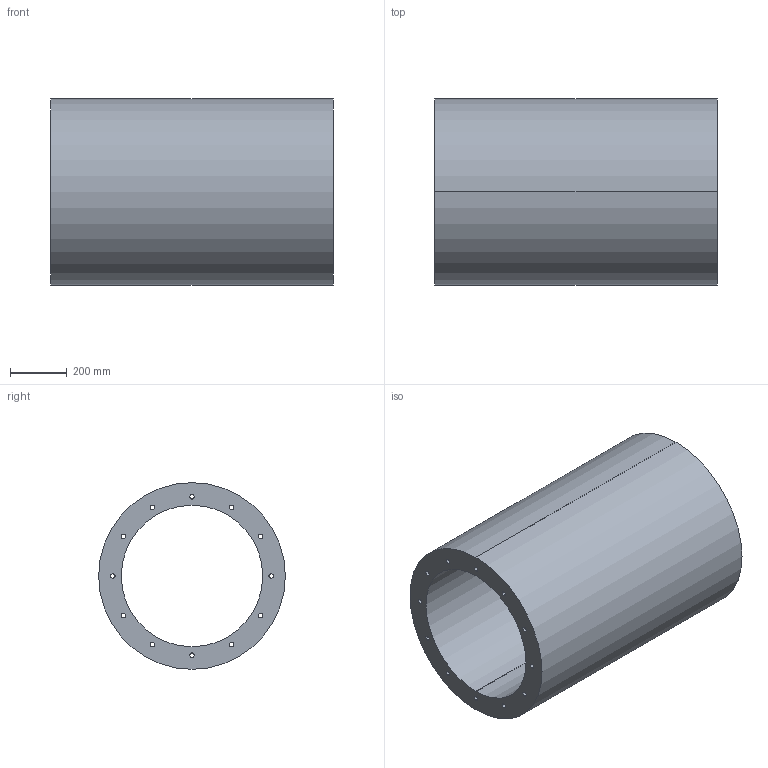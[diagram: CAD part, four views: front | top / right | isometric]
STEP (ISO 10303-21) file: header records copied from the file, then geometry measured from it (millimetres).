
FILE_DESCRIPTION(('STEP AP214'),'1');
FILE_NAME('accessory_5211810800.stp','2017-10-09T11:38:30',('TraceParts'),('TraceParts S.A.'),'Spatial InterOp 3D',' ',' ');
FILE_SCHEMA(('automotive_design'));
Length unit declared in the file: millimetre
Products named in the file (1): accessory_5211810800
Bounding box: 1000 x 660 x 660 mm (x, y, z)
Volume: 143357156 mm3; surface area: 4534147.6 mm2
Topology: 1 solids, 1 shells, 30 faces, 84 edges, 56 vertices
Faces by surface type: cylinder 28, plane 2
Entity records: 1312 total; most frequent: DIRECTION 202, CARTESIAN_POINT 171, ORIENTED_EDGE 168, AXIS2_PLACEMENT_3D 87, EDGE_CURVE 84, EDGE_LOOP 56, VERTEX_POINT 56, CIRCLE 56
